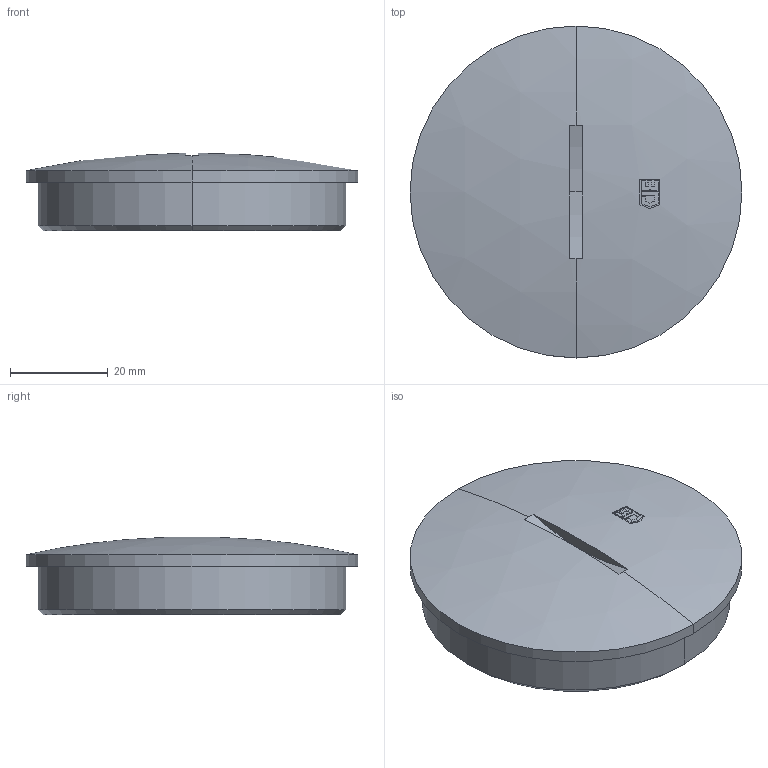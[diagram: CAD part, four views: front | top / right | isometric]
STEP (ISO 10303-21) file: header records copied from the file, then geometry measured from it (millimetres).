
FILE_DESCRIPTION (( 'STEP AP203' ), '1' );
FILE_NAME ('10.6315.STEP', '2005-10-06T12:36:06', ( ' ' ), ( '' ), 'SwSTEP 2.0', 'SolidWorks 2005143', '' );
FILE_SCHEMA (( 'CONFIG_CONTROL_DESIGN' ));
Length unit declared in the file: millimetre
Products named in the file (1): 10.6315
Bounding box: 68 x 68 x 15.93 mm (x, y, z)
Volume: 21868.9 mm3; surface area: 11423.8 mm2
Topology: 1 solids, 1 shells, 56 faces, 141 edges, 92 vertices
Faces by surface type: plane 39, cylinder 8, sphere 5, cone 4
Entity records: 1810 total; most frequent: DIRECTION 335, CARTESIAN_POINT 314, ORIENTED_EDGE 282, AXIS2_PLACEMENT_3D 145, EDGE_CURVE 141, VERTEX_POINT 92, CIRCLE 88, EDGE_LOOP 61
